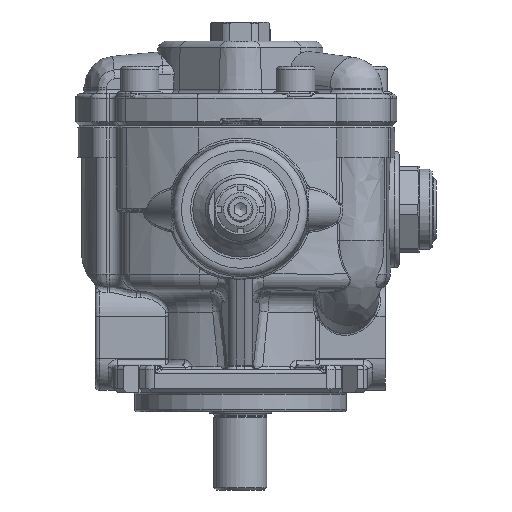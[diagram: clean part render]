
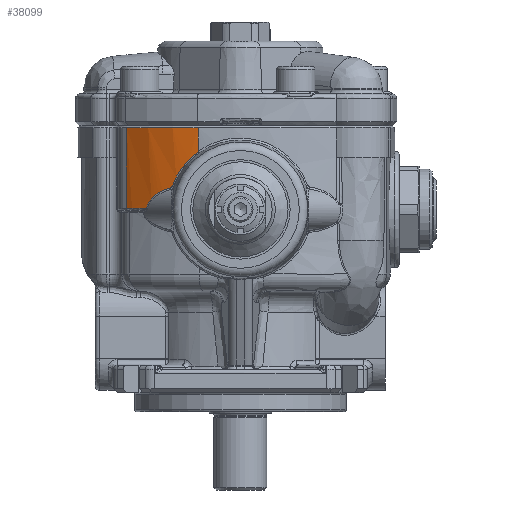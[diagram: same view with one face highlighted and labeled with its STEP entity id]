
A CAD part, front view. The second image highlights one B-rep face of the part: STEP entity #38099.
In plain terms, the highlighted cylindrical face has radius 79.124 mm (diameter 158.248 mm), a partial arc.
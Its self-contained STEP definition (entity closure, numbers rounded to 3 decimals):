
#3349=FACE_OUTER_BOUND('',#5580,.T.);
#5580=EDGE_LOOP('',(#29472,#29473,#29474,#29475,#29476,#29477,#29478,#29479));
#6956=B_SPLINE_CURVE_WITH_KNOTS('',3,(#64737,#64738,#64739,#64740,#64741),
 .UNSPECIFIED.,.F.,.F.,(4,1,4),(0.,0.047,0.094),
 .UNSPECIFIED.);
#6957=B_SPLINE_CURVE_WITH_KNOTS('',3,(#64786,#64787,#64788,#64789,#64790,
#64791,#64792),.UNSPECIFIED.,.F.,.F.,(4,1,1,1,4),(10.463,11.2,
11.691,11.936,12.182),.UNSPECIFIED.);
#7171=B_SPLINE_CURVE_WITH_KNOTS('',3,(#70567,#70568,#70569,#70570),
 .UNSPECIFIED.,.F.,.F.,(4,4),(0.,2.133),
 .UNSPECIFIED.);
#8623=CIRCLE('',#41092,79.124);
#8684=CIRCLE('',#41187,79.124);
#8686=CIRCLE('',#41190,79.124);
#10670=LINE('',#64677,#12873);
#10946=LINE('',#70250,#13149);
#12873=VECTOR('',#47256,10.);
#13149=VECTOR('',#48466,10.);
#15624=VERTEX_POINT('',#64656);
#15626=VERTEX_POINT('',#64675);
#15627=VERTEX_POINT('',#64733);
#15628=VERTEX_POINT('',#64735);
#15632=VERTEX_POINT('',#64785);
#16062=VERTEX_POINT('',#70154);
#16088=VERTEX_POINT('',#70248);
#16141=VERTEX_POINT('',#70538);
#19998=EDGE_CURVE('',#15626,#15624,#10670,.T.);
#20001=EDGE_CURVE('',#15628,#15627,#6956,.T.);
#20006=EDGE_CURVE('',#15627,#15632,#6957,.T.);
#20715=EDGE_CURVE('',#16062,#15626,#8623,.T.);
#20763=EDGE_CURVE('',#16062,#16088,#10946,.T.);
#20837=EDGE_CURVE('',#16141,#16088,#8684,.T.);
#20839=EDGE_CURVE('',#15632,#16141,#8686,.T.);
#20841=EDGE_CURVE('',#15624,#15628,#7171,.T.);
#29472=ORIENTED_EDGE('',*,*,#20001,.F.);
#29473=ORIENTED_EDGE('',*,*,#20841,.F.);
#29474=ORIENTED_EDGE('',*,*,#19998,.F.);
#29475=ORIENTED_EDGE('',*,*,#20715,.F.);
#29476=ORIENTED_EDGE('',*,*,#20763,.T.);
#29477=ORIENTED_EDGE('',*,*,#20837,.F.);
#29478=ORIENTED_EDGE('',*,*,#20839,.F.);
#29479=ORIENTED_EDGE('',*,*,#20006,.F.);
#34393=CYLINDRICAL_SURFACE('',#41194,79.124);
#38099=ADVANCED_FACE('',(#3349),#34393,.T.);
#41092=AXIS2_PLACEMENT_3D('',#70156,#48361,#48362);
#41187=AXIS2_PLACEMENT_3D('',#70540,#48602,#48603);
#41190=AXIS2_PLACEMENT_3D('',#70543,#48608,#48609);
#41194=AXIS2_PLACEMENT_3D('',#70571,#48616,#48617);
#47256=DIRECTION('',(0.,0.,-1.));
#48361=DIRECTION('center_axis',(0.,0.,1.));
#48362=DIRECTION('ref_axis',(-0.65,-0.76,0.));
#48466=DIRECTION('',(0.,0.,-1.));
#48602=DIRECTION('center_axis',(0.,0.,-1.));
#48603=DIRECTION('ref_axis',(-0.592,-0.806,0.));
#48608=DIRECTION('center_axis',(0.,0.,-1.));
#48609=DIRECTION('ref_axis',(-0.53,-0.848,0.));
#48616=DIRECTION('center_axis',(0.,0.,-1.));
#48617=DIRECTION('ref_axis',(0.65,0.76,0.));
#64656=CARTESIAN_POINT('',(108.594,-73.899,79.631));
#64675=CARTESIAN_POINT('',(108.594,-73.899,90.883));
#64677=CARTESIAN_POINT('',(108.594,-73.899,91.783));
#64733=CARTESIAN_POINT('',(95.726,-69.779,62.547));
#64735=CARTESIAN_POINT('',(96.357,-70.039,63.134));
#64737=CARTESIAN_POINT('Ctrl Pts',(96.357,-70.039,63.134));
#64738=CARTESIAN_POINT('Ctrl Pts',(96.306,-70.018,62.986));
#64739=CARTESIAN_POINT('Ctrl Pts',(96.132,-69.947,62.722));
#64740=CARTESIAN_POINT('Ctrl Pts',(95.866,-69.837,62.583));
#64741=CARTESIAN_POINT('Ctrl Pts',(95.726,-69.779,62.547));
#64785=CARTESIAN_POINT('',(84.3,-63.878,52.783));
#64786=CARTESIAN_POINT('Ctrl Pts',(95.726,-69.779,62.547));
#64787=CARTESIAN_POINT('Ctrl Pts',(93.547,-68.87,61.988));
#64788=CARTESIAN_POINT('Ctrl Pts',(90.088,-67.231,60.573));
#64789=CARTESIAN_POINT('Ctrl Pts',(86.574,-65.262,57.755));
#64790=CARTESIAN_POINT('Ctrl Pts',(84.829,-64.209,55.173));
#64791=CARTESIAN_POINT('Ctrl Pts',(84.366,-63.919,53.597));
#64792=CARTESIAN_POINT('Ctrl Pts',(84.3,-63.878,52.783));
#70154=CARTESIAN_POINT('',(74.743,-56.865,90.883));
#70156=CARTESIAN_POINT('Origin',(126.2,3.241,90.883));
#70248=CARTESIAN_POINT('',(74.743,-56.865,52.783));
#70250=CARTESIAN_POINT('',(74.743,-56.865,91.783));
#70538=CARTESIAN_POINT('',(82.883,-62.972,52.783));
#70540=CARTESIAN_POINT('Origin',(126.2,3.241,52.783));
#70543=CARTESIAN_POINT('Origin',(126.2,3.241,52.783));
#70567=CARTESIAN_POINT('Ctrl Pts',(108.594,-73.899,79.631));
#70568=CARTESIAN_POINT('Ctrl Pts',(102.973,-72.616,75.574));
#70569=CARTESIAN_POINT('Ctrl Pts',(98.634,-70.966,69.794));
#70570=CARTESIAN_POINT('Ctrl Pts',(96.357,-70.039,63.134));
#70571=CARTESIAN_POINT('Origin',(126.2,3.241,91.783));
